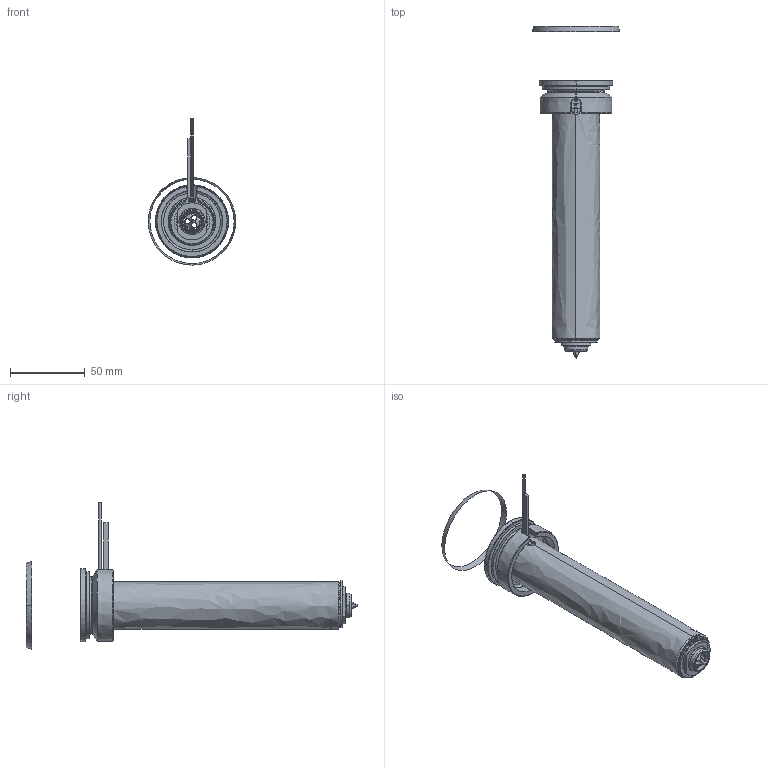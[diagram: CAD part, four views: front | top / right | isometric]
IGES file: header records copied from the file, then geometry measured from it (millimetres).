
Start section: SolidWorks IGES file using analytic representation for surfaces
Global section: file name: C:\Documents and Settings\ws-20\Desktop\TEM\UGEP5004-S-A-1 [Øf-1.18 ØC-13].IGS; native system: SolidWorks 2012; preprocessor: SolidWorks 2012; author: ws-20; date: 120426.101828; units: millimetre
Bounding box: 58.57 x 222.24 x 97.91 mm (x, y, z)
Surface area: 67771.6 mm2 (no closed solid volume)
Topology: 0 solids, 0 shells, 123 faces, 2399 edges, 2399 vertices
Faces by surface type: revolution 79, bspline 44
